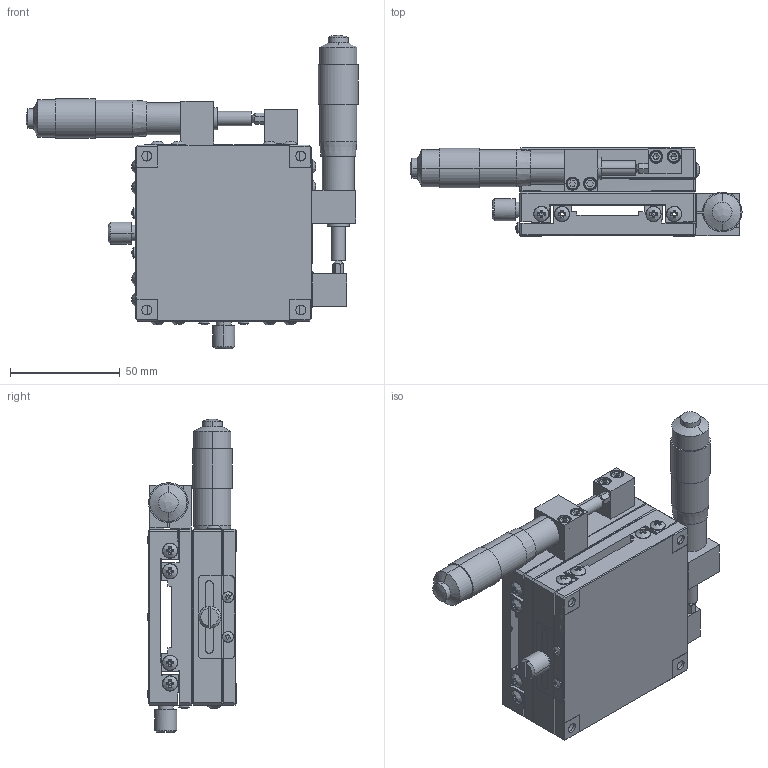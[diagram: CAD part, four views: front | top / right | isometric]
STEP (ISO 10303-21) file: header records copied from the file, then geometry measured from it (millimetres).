
FILE_DESCRIPTION (( 'STEP AP214' ), '1' );
FILE_NAME ('PT-XY80R.STEP', '2022-09-04T06:42:26', ( '' ), ( '' ), 'SwSTEP 2.0', 'SolidWorks 2017', '' );
FILE_SCHEMA (( 'AUTOMOTIVE_DESIGN' ));
Length unit declared in the file: millimetre
Products named in the file (1): PT-XY80R
Bounding box: 150.94 x 40.1 x 142.51 mm (x, y, z)
Surface area: 74482.6 mm2 (no closed solid volume)
Topology: 0 solids, 29 shells, 889 faces, 2541 edges, 1633 vertices
Faces by surface type: plane 547, cylinder 160, cone 106, bspline 76
Entity records: 37599 total; most frequent: CARTESIAN_POINT 16462, ORIENTED_EDGE 4442, DIRECTION 3792, EDGE_CURVE 2491, VERTEX_POINT 1626, VECTOR 1264, AXIS2_PLACEMENT_3D 1264, LINE 1264
